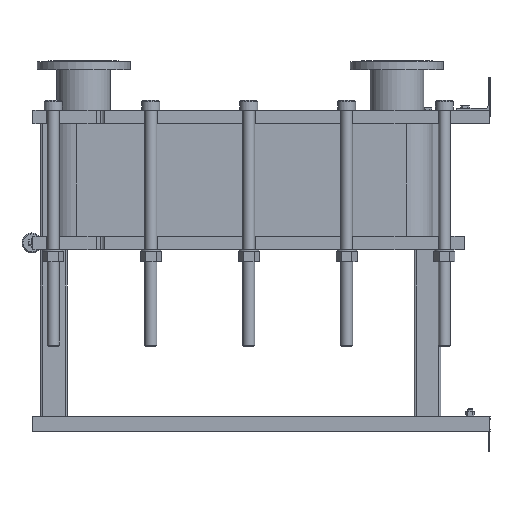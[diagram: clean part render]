
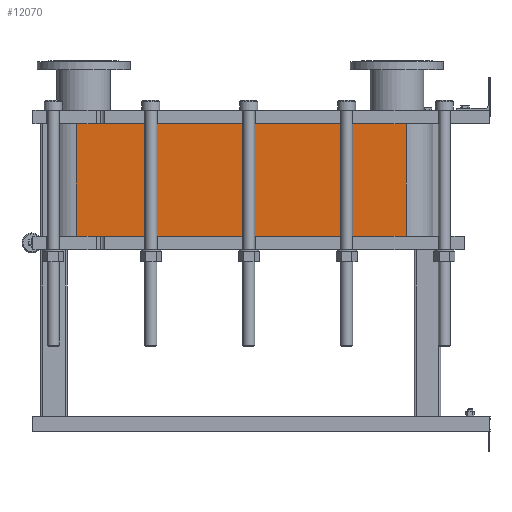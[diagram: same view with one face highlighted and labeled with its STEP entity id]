
A CAD part, left-side view. The second image highlights one B-rep face of the part: STEP entity #12070.
In plain terms, the highlighted planar face has unit normal (-1, 0, 0).
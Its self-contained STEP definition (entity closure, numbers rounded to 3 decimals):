
#1064=LINE('',#21140,#2164);
#1065=LINE('',#21144,#2165);
#1066=LINE('',#21146,#2166);
#1067=LINE('',#21147,#2167);
#2164=VECTOR('',#15790,10.);
#2165=VECTOR('',#15795,10.);
#2166=VECTOR('',#15796,10.);
#2167=VECTOR('',#15797,10.);
#3304=FACE_OUTER_BOUND('',#4091,.T.);
#4091=EDGE_LOOP('',(#9793,#9794,#9795,#9796));
#5677=VERTEX_POINT('',#21137);
#5678=VERTEX_POINT('',#21139);
#5679=VERTEX_POINT('',#21143);
#5680=VERTEX_POINT('',#21145);
#7118=EDGE_CURVE('',#5678,#5677,#1064,.T.);
#7120=EDGE_CURVE('',#5677,#5679,#1065,.T.);
#7121=EDGE_CURVE('',#5680,#5679,#1066,.T.);
#7122=EDGE_CURVE('',#5680,#5678,#1067,.T.);
#9793=ORIENTED_EDGE('',*,*,#7120,.T.);
#9794=ORIENTED_EDGE('',*,*,#7121,.F.);
#9795=ORIENTED_EDGE('',*,*,#7122,.T.);
#9796=ORIENTED_EDGE('',*,*,#7118,.T.);
#11441=PLANE('',#13191);
#12070=ADVANCED_FACE('',(#3304),#11441,.T.);
#13191=AXIS2_PLACEMENT_3D('',#21142,#15793,#15794);
#15790=DIRECTION('',(0.,0.,-1.));
#15793=DIRECTION('center_axis',(-1.,0.,0.));
#15794=DIRECTION('ref_axis',(0.,1.,0.));
#15795=DIRECTION('',(0.,-1.,0.));
#15796=DIRECTION('',(0.,0.,-1.));
#15797=DIRECTION('',(0.,1.,0.));
#21137=CARTESIAN_POINT('',(-248.152,1243.818,-338.1));
#21139=CARTESIAN_POINT('',(-248.152,1243.818,0.));
#21140=CARTESIAN_POINT('',(-248.152,1243.818,0.));
#21142=CARTESIAN_POINT('Origin',(-248.152,251.818,0.));
#21143=CARTESIAN_POINT('',(-248.152,251.818,-338.1));
#21144=CARTESIAN_POINT('',(-248.152,499.818,-338.1));
#21145=CARTESIAN_POINT('',(-248.152,251.818,0.));
#21146=CARTESIAN_POINT('',(-248.152,251.818,0.));
#21147=CARTESIAN_POINT('',(-248.152,251.818,0.));
